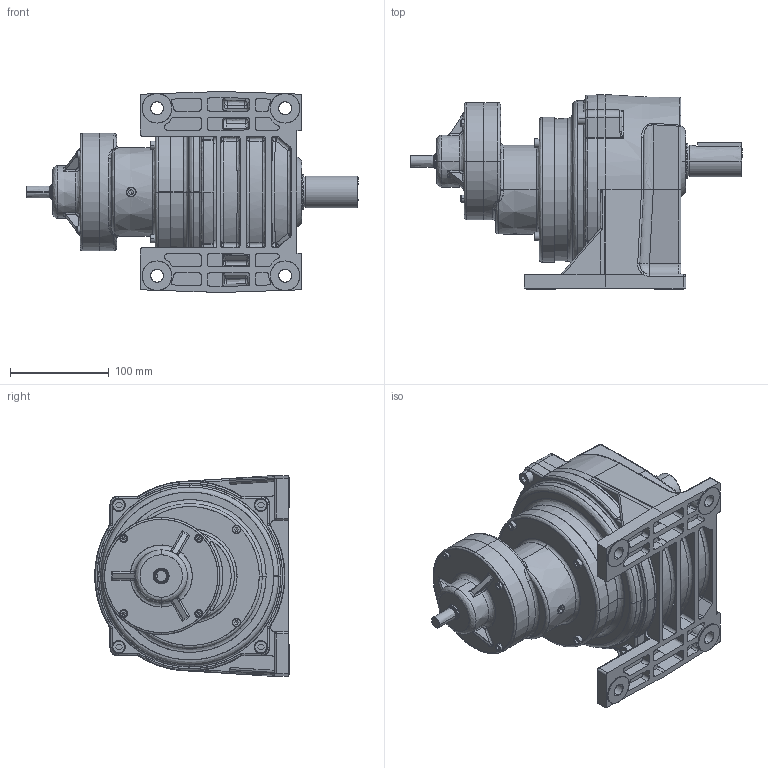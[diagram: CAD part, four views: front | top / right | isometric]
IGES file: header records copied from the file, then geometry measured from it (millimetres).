
Start section: SolidWorks IGES file using analytic representation for surfaces
Bounding box: 337 x 197.5 x 204 mm (x, y, z)
Surface area: 424254.1 mm2 (no closed solid volume)
Topology: 0 solids, 0 shells, 1068 faces, 13642 edges, 13616 vertices
Faces by surface type: bspline 617, revolution 451
